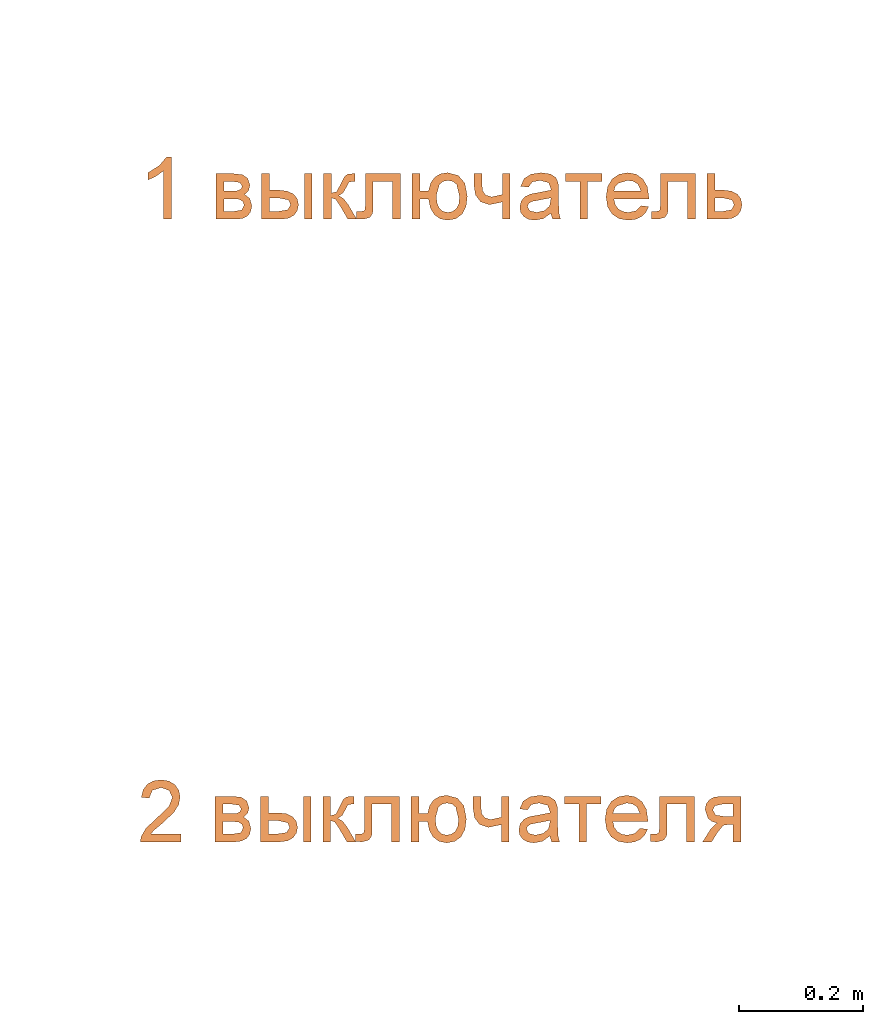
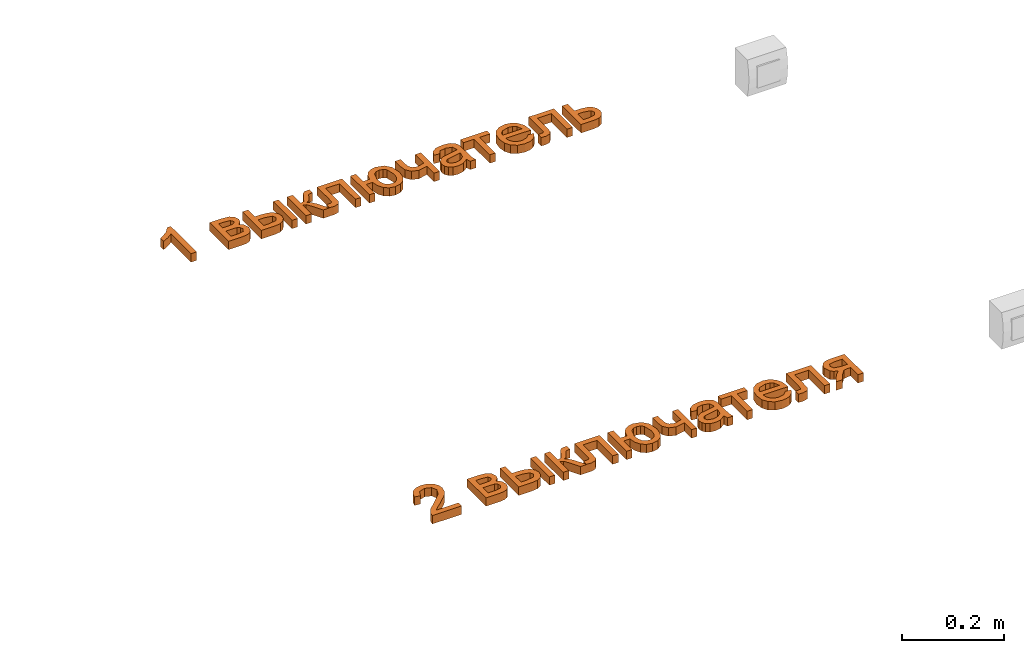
# One storey, part 62 of 87: 2 proxies.
"""IFC2X3 building model written with IfcOpenShell, lengths in millimetres."""

from ifc_helpers import new_model, entity, si_unit, converted_unit, derived_unit, direction, frame, frame_2d, origin, place, context, subcontext, project, spatial, polyline, rectangle, outline, extrude, element, save


model = new_model("IFC2X3")

# Units and contexts
model_context = context("Model", 3, precision=0.01, world=origin(), true_north=direction((6.12303176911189e-17, 1.0)))
body_context = subcontext(model_context, "Body", "Model", "MODEL_VIEW")
ifc_project = project(units=[si_unit("LENGTHUNIT", "METRE", prefix="MILLI"), si_unit("AREAUNIT", "SQUARE_METRE"), si_unit("VOLUMEUNIT", "CUBIC_METRE"), converted_unit("PLANEANGLEUNIT", "DEGREE", entity("IfcRatioMeasure", 0.0174532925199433), si_unit("PLANEANGLEUNIT", "RADIAN"), dimensions=[0, 0, 0, 0, 0, 0, 0]), si_unit("MASSUNIT", "GRAM", prefix="KILO"), derived_unit("MASSDENSITYUNIT", [(si_unit("MASSUNIT", "GRAM", prefix="KILO"), 1), (si_unit("LENGTHUNIT", "METRE"), -3)]), si_unit("TIMEUNIT", "SECOND"), si_unit("FREQUENCYUNIT", "HERTZ"), si_unit("THERMODYNAMICTEMPERATUREUNIT", "DEGREE_CELSIUS"), derived_unit("THERMALTRANSMITTANCEUNIT", [(si_unit("MASSUNIT", "GRAM", prefix="KILO"), 1), (si_unit("THERMODYNAMICTEMPERATUREUNIT", "KELVIN"), -1), (si_unit("TIMEUNIT", "SECOND"), -3)]), derived_unit("VOLUMETRICFLOWRATEUNIT", [(si_unit("LENGTHUNIT", "METRE"), 3), (si_unit("TIMEUNIT", "SECOND"), -1)]), si_unit("ELECTRICCURRENTUNIT", "AMPERE"), si_unit("ELECTRICVOLTAGEUNIT", "VOLT"), si_unit("POWERUNIT", "WATT"), si_unit("FORCEUNIT", "NEWTON", prefix="KILO"), si_unit("ILLUMINANCEUNIT", "LUX"), si_unit("LUMINOUSFLUXUNIT", "LUMEN"), si_unit("LUMINOUSINTENSITYUNIT", "CANDELA"), derived_unit("USERDEFINED", [(si_unit("MASSUNIT", "GRAM", prefix="KILO"), -1), (si_unit("LENGTHUNIT", "METRE"), -2), (si_unit("TIMEUNIT", "SECOND"), 3), (si_unit("LUMINOUSFLUXUNIT", "LUMEN"), 1)]), derived_unit("LINEARVELOCITYUNIT", [(si_unit("LENGTHUNIT", "METRE"), 1), (si_unit("TIMEUNIT", "SECOND"), -1)]), si_unit("PRESSUREUNIT", "PASCAL"), derived_unit("USERDEFINED", [(si_unit("LENGTHUNIT", "METRE"), -2), (si_unit("MASSUNIT", "GRAM", prefix="KILO"), 1), (si_unit("TIMEUNIT", "SECOND"), -2)])], contexts=[model_context])

# Site, building, storey
site_placement = place(None, origin())
site = spatial("IfcSite", under=ifc_project, at=site_placement, Name="Default", CompositionType="ELEMENT")
building_placement = place(site_placement, origin())
building = spatial("IfcBuilding", under=site, at=building_placement, Name="Наименование здания", CompositionType="ELEMENT")
storey_placement = place(building_placement, origin())
storey = spatial("IfcBuildingStorey", under=building, at=storey_placement, Name="Этаж 01", CompositionType="ELEMENT", Elevation=0.0)

# Proxies
proxy_1_placement = place(storey_placement, origin())
element("IfcBuildingElementProxy", 1, at=proxy_1_placement, inside=storey, Name="Текст модели:100 мм Arial", ObjectType="Текст модели:100 мм Arial", context=body_context, shape_type="SweptSolid", body=[
    extrude(outline(polyline([(-63.8793021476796, -16.918484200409), (36.5770080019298, -16.918484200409), (36.5770080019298, -8.825080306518), (23.2106288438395, 2.34626961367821), (11.4629304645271, 20.7526321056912), (-0.407395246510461, 20.7526321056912), (5.93243780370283, 7.53340574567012), (14.4059864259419, -4.36144543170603), (-63.8793021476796, -4.36144543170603), (-63.8793021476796, -16.918484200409)])), frame((58426.7497074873, -3683.26428571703, 0.0), z_axis=(0.0, 0.0, 1.0), x_axis=(0.0, 1.0, 0.0)), (0.0, 0.0, 1.0), 20.0),
    extrude(outline(polyline([(-37.9619182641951, -40.7346098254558), (35.8106845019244, -40.7346098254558), (35.8106845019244, -8.82697811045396), (34.4801779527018, 2.14816807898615), (30.4886583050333, 10.1557328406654), (23.7502864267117, 15.214110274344), (14.1792231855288, 17.3416944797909), (2.34568567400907, 13.9817055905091), (-4.4601312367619, 5.54494516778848), (-10.6773369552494, 12.0441937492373), (-19.3961402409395, 14.2024347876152), (-30.1260317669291, 10.633979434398), (-36.2819238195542, 2.09911714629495), (-37.9619182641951, -13.0698837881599), (-37.9619182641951, -40.7346098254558)]), holes=[polyline([(-9.70858103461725, -28.1775710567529), (-25.4048794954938, -28.1775710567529), (-25.4048794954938, -15.3752776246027), (-23.6635713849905, -2.2051021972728), (-17.5076793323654, 1.64539601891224), (-12.8968916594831, -0.54963321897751), (-10.3462431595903, -5.52830288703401), (-9.70858103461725, -15.7676850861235), (-9.70858103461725, -28.1775710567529)]), polyline([(23.2536457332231, -28.1775710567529), (2.84845773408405, -28.1775710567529), (2.84845773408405, -14.0018515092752), (3.58422172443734, -2.95312892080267), (7.10362614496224, 2.63867740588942), (13.1491535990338, 4.78465571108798), (20.9850400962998, 0.88510656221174), (23.2536457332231, -12.7755781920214), (23.2536457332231, -28.1775710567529)])]), frame((58556.6057744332, -3711.33290336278, 0.0), z_axis=(0.0, 0.0, 1.0), x_axis=(0.0, -1.0, 0.0)), (0.0, 0.0, 1.0), 20.0),
    extrude(outline(polyline([(-42.3988715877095, -34.5139341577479), (31.37373117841, -34.5139341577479), (31.37373117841, -3.73447389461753), (29.6538828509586, 9.31613988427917), (24.4943378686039, 18.2526066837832), (16.9129030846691, 23.4121516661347), (7.927385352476, 25.1319999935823), (-1.9410491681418, 23.0810578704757), (-9.42438208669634, 16.9282315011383), (-14.1424686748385, 6.98622058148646), (-15.7151642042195, -6.43227519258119), (-15.7151642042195, -21.956895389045), (-42.3988715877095, -21.956895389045), (-42.3988715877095, -34.5139341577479)]), holes=[polyline([(18.8166924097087, -21.956895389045), (-3.15812543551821, -21.956895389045), (-3.15812543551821, -7.41329384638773), (0.226388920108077, 8.88387853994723), (7.95191081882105, 12.5749612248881), (16.1802047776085, 7.59629155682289), (18.8166924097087, -9.05650009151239), (18.8166924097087, -21.956895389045)])]), frame((58624.1577015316, -3715.7698566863, 0.0), z_axis=(0.0, 0.0, 1.0), x_axis=(0.0, -1.0, 0.0)), (0.0, 0.0, 1.0), 20.0),
    extrude(outline(polyline([(-30.3295712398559, -29.5353037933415), (43.4430315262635, -29.5353037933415), (43.4430315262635, -16.9782650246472), (8.91117491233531, -16.9782650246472), (11.2288314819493, -10.2337617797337), (20.806026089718, -3.61188586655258), (43.4430315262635, 9.55828956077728), (43.4430315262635, 23.8321109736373), (20.3155167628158, 10.3921554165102), (10.0209522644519, 2.6175825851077), (5.13425309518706, -5.30414304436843), (0.756457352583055, 1.79597946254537), (-8.18307513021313, 6.86048826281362), (-16.4481572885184, 11.176970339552), (-17.7725324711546, 17.3083369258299), (-17.6989560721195, 20.6928512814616), (-30.3295712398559, 20.6928512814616), (-30.3295712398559, 18.2893555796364), (-29.3730780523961, 9.10456843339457), (-25.6819953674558, 4.05232236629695), (-14.3389671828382, -1.67437402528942), (-1.19331722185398, -8.56603006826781), (1.06302568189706, -16.9782650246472), (-30.3295712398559, -16.9782650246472), (-30.3295712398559, -29.5353037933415)])), frame((58719.6353813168, -3703.70055633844, 0.0), z_axis=(0.0, 0.0, 1.0), x_axis=(0.0, -1.0, 0.0)), (0.0, 0.0, 1.0), 20.0),
    extrude(outline(polyline([(-37.3770894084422, -42.2980684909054), (36.3955133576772, -42.2980684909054), (36.3955133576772, -29.7410297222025), (3.43328658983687, -29.7410297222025), (3.43328658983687, -15.614361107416), (17.8052098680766, -12.7908667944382), (28.7435678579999, -6.38052302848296), (35.6597493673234, 3.17521179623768), (37.9651432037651, 15.434879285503), (35.5064652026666, 28.5529380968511), (28.1304311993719, 38.6237077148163), (15.9903253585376, 45.0340514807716), (-0.760568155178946, 47.17083273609), (-22.0486729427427, 43.0382916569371), (-34.4462961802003, 32.541392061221), (-38.9467192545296, 15.1650991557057), (-37.0337328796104, 3.44499192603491), (-31.2947737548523, -5.86548823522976), (-21.9260456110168, -12.3555397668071), (-9.12375217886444, -15.614361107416), (-9.12375217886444, -29.7410297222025), (-37.3770894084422, -29.7410297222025), (-37.3770894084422, -42.2980684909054)]), holes=[polyline([(-26.3896804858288, 15.9744395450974), (-24.749539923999, 24.1598139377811), (-19.8291182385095, 29.9784808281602), (-0.147431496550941, 34.6137939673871), (11.4623111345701, 33.2740903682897), (19.3625769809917, 29.2549795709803), (23.8967225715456, 23.1389414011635), (25.4081044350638, 15.5084556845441), (23.7740952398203, 7.89942975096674), (18.8720676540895, 1.99492372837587), (10.4690297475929, -1.79426082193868), (-1.66801040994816, -3.05732233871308), (-19.8904319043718, 1.95813552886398), (-24.7648683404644, 7.9699404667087), (-26.3896804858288, 15.9744395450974)])]), frame((58875.2344620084, -3710.74807450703, 0.0), z_axis=(0.0, 0.0, 1.0), x_axis=(0.0, -1.0, 0.0)), (0.0, 0.0, 1.0), 20.0),
    extrude(outline(polyline([(-30.7618325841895, -26.3234895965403), (-10.4056955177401, -26.3234895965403), (3.94170229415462, -24.11619762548), (14.9658994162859, -15.7407508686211), (19.4663224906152, -1.50371765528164), (15.1498404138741, 19.1957759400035), (43.0107701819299, 19.1957759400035), (43.0107701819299, 31.7528147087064), (-30.7618325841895, 31.7528147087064), (-30.7618325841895, 19.1957759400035), (3.10783643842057, 19.1957759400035), (6.90928372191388, 1.85627123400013), (3.8436004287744, -7.85581343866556), (-3.34236121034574, -12.748643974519), (-16.6106385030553, -13.7664508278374), (-30.7618325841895, -13.7664508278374), (-30.7618325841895, -26.3234895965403)])), frame((58959.7161932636, -3704.13281768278, 0.0), z_axis=(0.0, 0.0, 1.0), x_axis=(0.0, -1.0, 0.0)), (0.0, 0.0, 1.0), 20.0),
    extrude(outline(polyline([(32.0508237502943, 7.88266535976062), (41.9780345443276, 7.88266535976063), (45.948918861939, 19.7953183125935), (35.1414436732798, 20.7608946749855), (14.2438893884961, 27.0545912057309), (-0.577126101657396, 31.9949297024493), (-11.1945882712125, 34.8877809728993), (-20.4974705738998, 33.9299602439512), (-28.5323068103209, 27.5470739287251), (-35.4619652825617, 13.8157249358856), (-38.3044049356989, -2.69989645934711), (-34.9462156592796, -15.3493345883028), (-25.030638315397, -24.3807697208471), (-19.5706723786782, -12.9644773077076), (-25.7868125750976, -4.50695904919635), (-24.0611841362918, 8.30922519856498), (-16.227994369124, 20.3304570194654), (-6.33956174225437, 20.679460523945), (-3.71040200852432, 19.7255176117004), (-6.50243004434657, -2.30048133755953), (-8.14662433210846, -13.2049019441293), (-7.01817966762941, -22.8490321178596), (-2.17478658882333, -31.1204151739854), (6.48825595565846, -36.5416029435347), (15.0010331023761, -37.7020395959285), (22.9495879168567, -35.320090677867), (29.6378522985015, -29.3899394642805), (34.3697581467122, -19.9057692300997), (36.2737661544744, -6.36055543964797), (32.0508237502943, 7.88266535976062)]), holes=[polyline([(8.2255178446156, 15.8244339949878), (11.5759514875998, 14.6300664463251), (20.1614376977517, 9.67421668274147), (24.4696920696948, -0.396473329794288), (23.3024692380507, -13.398792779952), (17.2491973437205, -22.9498553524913), (9.6215318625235, -24.3497471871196), (5.58084684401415, -21.1932043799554), (3.98706417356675, -15.5044472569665), (5.47226797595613, -4.61166010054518), (8.2255178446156, 15.8244339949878)])]), frame((59039.7799481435, -3709.81244526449, 0.0), z_axis=(0.0, 0.0, 1.0), x_axis=(0.316227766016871, -0.948683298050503, 0.0)), (0.0, 0.0, 1.0), 20.0),
    extrude(outline(polyline([(-24.7216700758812, -29.8229670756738), (-12.1646313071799, -29.8229670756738), (-12.1646313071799, -6.27851938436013), (49.0509326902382, -6.27851938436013), (49.0509326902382, 6.2785193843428), (-12.1646313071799, 6.2785193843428), (-12.1646313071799, 29.8229670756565), (-24.7216700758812, 29.8229670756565), (-24.7216700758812, -29.8229670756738)])), frame((59110.760876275, -3698.09265517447, 0.0), z_axis=(0.0, 0.0, 1.0), x_axis=(0.0, -1.0, 0.0)), (0.0, 0.0, 1.0), 20.0),
    extrude(outline(polyline([(-8.10128238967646, -20.3751729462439), (-15.5352214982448, -30.3140016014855), (-5.78400372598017, -33.5775071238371), (4.12185089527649, -33.3132173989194), (13.8776168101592, -29.4480778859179), (23.1785684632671, -21.9090340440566), (31.6380426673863, -9.59237957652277), (34.1620486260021, 3.74135328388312), (30.604050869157, 17.2442201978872), (20.817513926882, 30.0682768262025), (7.27698270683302, 39.784672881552), (-6.66179525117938, 43.1117813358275), (-19.9642596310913, 40.4221234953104), (-31.595850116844, 32.0882206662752), (-39.2435519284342, 20.5090048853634), (-41.3106827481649, 7.3431979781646), (-37.4373707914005, -6.34962495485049), (-27.2637442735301, -19.5098888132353), (-24.7804584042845, -21.8106804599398), (14.4643272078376, 18.7422646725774), (19.7071986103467, 10.6437992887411), (21.161467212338, 2.21005051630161), (19.1472085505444, -5.98136753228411), (13.9844981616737, -13.3528407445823), (3.53684605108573, -20.3751729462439), (-8.10128238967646, -20.3751729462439)]), holes=[polyline([(5.44081225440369, 27.4746984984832), (-25.1227061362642, -4.1076038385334), (-29.8038819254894, 7.41909510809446), (-27.8851342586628, 15.7498710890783), (-22.5382240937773, 23.3910349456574), (-8.40970331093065, 31.2368652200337), (-1.0807268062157, 30.9147288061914), (5.44081225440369, 27.4746984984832)])]), frame((59182.9464361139, -3716.82103703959, 0.0), z_axis=(0.0, 0.0, -1.0), x_axis=(-0.695421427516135, -0.718602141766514, 0.0)), (0.0, 0.0, -1.0), 20.0),
    extrude(outline(polyline([(-49.3689973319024, 12.5447760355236), (-49.3689973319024, -43.9618984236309), (24.3300290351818, -43.9618984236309), (24.3300290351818, -31.4048596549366), (-36.8119585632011, -31.4048596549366), (-36.8119585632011, -0.0122627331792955), (-1.61791435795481, -0.0122627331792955), (14.6179443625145, 0.833865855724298), (21.4728122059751, 5.4814417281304), (24.403605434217, 16.4688506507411), (23.765943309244, 26.6714446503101), (11.8465666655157, 26.6714446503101), (11.8465666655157, 21.0551128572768), (11.0740144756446, 15.3774673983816), (8.62146784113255, 13.1088617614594), (-2.32915288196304, 12.5447760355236), (-49.3689973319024, 12.5447760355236)])), frame((59247.3064101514, -3722.73998243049, 0.0), z_axis=(0.0, 0.0, -1.0), x_axis=(0.0, -1.0, 0.0)), (0.0, 0.0, -1.0), 20.0),
    extrude(outline(polyline([(-42.3988715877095, -32.8641249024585), (31.37373117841, -32.8641249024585), (31.37373117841, -3.70334541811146), (29.6538828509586, 8.66668666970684), (24.4943378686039, 17.1310382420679), (16.9129030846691, 22.0146717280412), (7.927385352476, 23.6425495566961), (-1.9410491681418, 21.7295631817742), (-9.42438208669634, 15.9906040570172), (-14.1424686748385, 6.70771504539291), (-15.7151642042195, -5.83706099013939), (-15.7151642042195, -20.3070861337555), (-42.3988715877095, -20.3070861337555), (-42.3988715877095, -32.8641249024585)]), holes=[polyline([(18.8166924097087, -20.3070861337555), (-3.15812543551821, -20.3070861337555), (-3.15812543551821, -7.0878597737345), (0.226388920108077, 7.73778463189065), (7.95191081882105, 11.0855107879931), (16.1802047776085, 6.56056224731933), (18.8166924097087, -8.58391322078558), (18.8166924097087, -20.3070861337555)])]), frame((59342.9679916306, -3715.7698566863, 0.0), z_axis=(0.0, 0.0, 1.0), x_axis=(0.0, -1.0, 0.0)), (0.0, 0.0, 1.0), 20.0),
    extrude(outline(polyline([(-49.3689973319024, 12.5447760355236), (-49.3689973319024, -43.9618984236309), (24.3300290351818, -43.9618984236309), (24.3300290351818, -31.404859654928), (-36.8119585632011, -31.404859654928), (-36.8119585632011, -0.0122627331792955), (-1.61791435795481, -0.0122627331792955), (14.6179443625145, 0.833865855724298), (21.4728122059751, 5.4814417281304), (24.403605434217, 16.4688506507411), (23.765943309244, 26.6714446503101), (11.8465666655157, 26.6714446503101), (11.8465666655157, 21.0551128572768), (11.0740144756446, 15.3774673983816), (8.62146784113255, 13.1088617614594), (-2.32915288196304, 12.5447760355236), (-49.3689973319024, 12.5447760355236)])), frame((58770.1389369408, -3722.73998243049, 0.0), z_axis=(0.0, 0.0, -1.0), x_axis=(0.0, -1.0, 0.0)), (0.0, 0.0, -1.0), 20.0),
    extrude(rectangle(XDim=73.7726027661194, YDim=12.5570387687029, at=frame_2d((-2.70006239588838e-13, 0.0), x_axis=(1.0, 0.0))), frame((58664.9859999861, -3710.25728648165, 0.0), z_axis=(0.0, 0.0, 1.0), x_axis=(0.0, -1.0, 0.0)), (0.0, 0.0, 1.0), 20.0),
])
proxy_2_placement = place(storey_placement, origin())
element("IfcBuildingElementProxy", 2, at=proxy_2_placement, inside=storey, Name="Текст модели:100 мм Arial", ObjectType="Текст модели:100 мм Arial", context=body_context, shape_type="SweptSolid", body=[
    extrude(outline(polyline([(-32.3858783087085, -45.1669477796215), (-32.3858783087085, -57.7239865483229), (33.5385752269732, -57.7239865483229), (32.1896745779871, -49.0664969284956), (24.5622545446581, -35.7369059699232), (8.84143061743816, -21.1810416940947), (-12.8390816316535, -0.260818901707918), (-18.259209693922, 13.9639515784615), (-13.1456499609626, 25.478658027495), (0.208466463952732, 30.1752848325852), (14.1266686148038, 25.589022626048), (19.4119066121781, 12.9093565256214), (31.968945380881, 14.4789863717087), (28.9247218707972, 26.6252235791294), (22.3426998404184, 35.4973110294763), (12.5662358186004, 40.923570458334), (-0.0613136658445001, 42.7323236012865), (-12.7808336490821, 40.7212353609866), (-22.5389035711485, 34.6879706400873), (-28.746912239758, 25.6748617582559), (-30.816248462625, 14.7242410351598), (-28.5844310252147, 2.81712712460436), (-21.1654774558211, -9.49465698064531), (-3.17604789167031, -26.6992716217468), (11.2694517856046, -38.7780637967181), (16.9348345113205, -45.1669477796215), (-32.3858783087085, -45.1669477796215)])), frame((58426.9786118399, -4696.58684601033, 0.0), z_axis=(0.0, 0.0, -1.0), x_axis=(-1.0, 0.0, 0.0)), (0.0, 0.0, -1.0), 20.0),
    extrude(outline(polyline([(-37.9619182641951, -40.7346098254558), (35.8106845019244, -40.7346098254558), (35.8106845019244, -8.82697811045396), (34.4801779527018, 2.14816807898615), (30.4886583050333, 10.1557328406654), (23.7502864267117, 15.214110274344), (14.1792231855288, 17.3416944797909), (2.34568567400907, 13.9817055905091), (-4.4601312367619, 5.54494516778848), (-10.6773369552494, 12.0441937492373), (-19.3961402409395, 14.2024347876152), (-30.1260317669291, 10.633979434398), (-36.2819238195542, 2.09911714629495), (-37.9619182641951, -13.0698837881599), (-37.9619182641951, -40.7346098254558)]), holes=[polyline([(-9.70858103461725, -28.1775710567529), (-25.4048794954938, -28.1775710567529), (-25.4048794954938, -15.3752776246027), (-23.6635713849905, -2.2051021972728), (-17.5076793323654, 1.64539601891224), (-12.8968916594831, -0.54963321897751), (-10.3462431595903, -5.52830288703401), (-9.70858103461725, -15.7676850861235), (-9.70858103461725, -28.1775710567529)]), polyline([(23.2536457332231, -28.1775710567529), (2.84845773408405, -28.1775710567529), (2.84845773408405, -14.0018515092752), (3.58422172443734, -2.95312892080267), (7.10362614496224, 2.63867740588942), (13.1491535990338, 4.78465571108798), (20.9850400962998, 0.88510656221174), (23.2536457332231, -12.7755781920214), (23.2536457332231, -28.1775710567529)])]), frame((58555.0361445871, -4718.50014805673, 0.0), z_axis=(0.0, 0.0, 1.0), x_axis=(0.0, -1.0, 0.0)), (0.0, 0.0, 1.0), 20.0),
    extrude(outline(polyline([(-42.3988715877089, -34.5139341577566), (31.3737311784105, -34.5139341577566), (31.3737311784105, -3.73447389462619), (29.6538828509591, 9.3161398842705), (24.4943378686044, 18.2526066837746), (16.9129030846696, 23.4121516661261), (7.92738535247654, 25.1319999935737), (-1.94104916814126, 23.081057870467), (-9.42438208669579, 16.9282315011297), (-14.1424686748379, 6.9862205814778), (-15.715164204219, -6.43227519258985), (-15.715164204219, -21.9568953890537), (-42.3988715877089, -21.9568953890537), (-42.3988715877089, -34.5139341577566)]), holes=[polyline([(18.8166924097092, -21.9568953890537), (-3.15812543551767, -21.9568953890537), (-3.15812543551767, -7.41329384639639), (0.226388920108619, 8.88387853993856), (7.95191081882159, 12.5749612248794), (16.180204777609, 7.59629155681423), (18.8166924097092, -9.05650009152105), (18.8166924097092, -21.9568953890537)])]), frame((58622.5880716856, -4722.93710138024, 0.0), z_axis=(0.0, 0.0, 1.0), x_axis=(0.0, -1.0, 0.0)), (0.0, 0.0, 1.0), 20.0),
    extrude(outline(polyline([(-30.329571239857, -29.5353037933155), (43.4430315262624, -29.5353037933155), (43.4430315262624, -16.9782650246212), (8.91117491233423, -16.9782650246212), (11.2288314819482, -10.2337617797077), (20.8060260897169, -3.61188586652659), (43.4430315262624, 9.55828956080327), (43.4430315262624, 23.8321109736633), (20.3155167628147, 10.3921554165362), (10.0209522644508, 2.61758258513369), (5.13425309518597, -5.30414304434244), (0.756457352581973, 1.79597946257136), (-8.18307513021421, 6.86048826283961), (-16.4481572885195, 11.176970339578), (-17.7725324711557, 17.3083369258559), (-17.6989560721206, 20.6928512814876), (-30.329571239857, 20.6928512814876), (-30.329571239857, 18.2893555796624), (-29.3730780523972, 9.10456843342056), (-25.6819953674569, 4.05232236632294), (-14.3389671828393, -1.67437402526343), (-1.19331722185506, -8.56603006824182), (1.06302568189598, -16.9782650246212), (-30.329571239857, -16.9782650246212), (-30.329571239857, -29.5353037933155)])), frame((58718.0657514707, -4710.86780103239, 0.0), z_axis=(0.0, 0.0, 1.0), x_axis=(0.0, -1.0, 0.0)), (0.0, 0.0, 1.0), 20.0),
    extrude(outline(polyline([(-37.3770894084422, -42.2980684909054), (36.3955133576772, -42.2980684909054), (36.3955133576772, -29.7410297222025), (3.43328658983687, -29.7410297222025), (3.43328658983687, -15.614361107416), (17.8052098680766, -12.7908667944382), (28.7435678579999, -6.38052302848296), (35.6597493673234, 3.17521179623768), (37.9651432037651, 15.434879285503), (35.5064652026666, 28.5529380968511), (28.1304311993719, 38.6237077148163), (15.9903253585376, 45.0340514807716), (-0.760568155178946, 47.17083273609), (-22.0486729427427, 43.0382916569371), (-34.4462961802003, 32.541392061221), (-38.9467192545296, 15.1650991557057), (-37.0337328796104, 3.44499192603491), (-31.2947737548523, -5.86548823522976), (-21.9260456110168, -12.3555397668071), (-9.12375217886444, -15.614361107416), (-9.12375217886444, -29.7410297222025), (-37.3770894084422, -29.7410297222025), (-37.3770894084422, -42.2980684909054)]), holes=[polyline([(-26.3896804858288, 15.9744395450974), (-24.749539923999, 24.1598139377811), (-19.8291182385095, 29.9784808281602), (-0.147431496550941, 34.6137939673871), (11.4623111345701, 33.2740903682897), (19.3625769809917, 29.2549795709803), (23.8967225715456, 23.1389414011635), (25.4081044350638, 15.5084556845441), (23.7740952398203, 7.89942975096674), (18.8720676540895, 1.99492372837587), (10.4690297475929, -1.79426082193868), (-1.66801040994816, -3.05732233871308), (-19.8904319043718, 1.95813552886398), (-24.7648683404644, 7.9699404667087), (-26.3896804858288, 15.9744395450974)])]), frame((58873.6648321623, -4717.91531920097, 0.0), z_axis=(0.0, 0.0, 1.0), x_axis=(0.0, -1.0, 0.0)), (0.0, 0.0, 1.0), 20.0),
    extrude(outline(polyline([(-30.7618325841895, -26.3234895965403), (-10.4056955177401, -26.3234895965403), (3.94170229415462, -24.11619762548), (14.9658994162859, -15.7407508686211), (19.4663224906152, -1.50371765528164), (15.1498404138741, 19.1957759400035), (43.0107701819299, 19.1957759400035), (43.0107701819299, 31.7528147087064), (-30.7618325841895, 31.7528147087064), (-30.7618325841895, 19.1957759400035), (3.10783643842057, 19.1957759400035), (6.90928372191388, 1.85627123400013), (3.8436004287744, -7.85581343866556), (-3.34236121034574, -12.748643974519), (-16.6106385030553, -13.7664508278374), (-30.7618325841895, -13.7664508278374), (-30.7618325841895, -26.3234895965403)])), frame((58958.1465634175, -4711.30006237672, 0.0), z_axis=(0.0, 0.0, 1.0), x_axis=(0.0, -1.0, 0.0)), (0.0, 0.0, 1.0), 20.0),
    extrude(outline(polyline([(32.0508237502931, 7.88266535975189), (41.9780345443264, 7.88266535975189), (45.9489188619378, 19.7953183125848), (35.1414436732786, 20.7608946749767), (14.2438893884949, 27.0545912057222), (-0.577126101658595, 31.9949297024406), (-11.1945882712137, 34.8877809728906), (-20.497470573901, 33.9299602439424), (-28.5323068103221, 27.5470739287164), (-35.4619652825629, 13.8157249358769), (-38.3044049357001, -2.69989645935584), (-34.9462156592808, -15.3493345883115), (-25.0306383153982, -24.3807697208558), (-19.5706723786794, -12.9644773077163), (-25.7868125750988, -4.50695904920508), (-24.061184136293, 8.30922519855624), (-16.2279943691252, 20.3304570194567), (-6.33956174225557, 20.6794605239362), (-3.71040200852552, 19.7255176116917), (-6.50243004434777, -2.30048133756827), (-8.14662433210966, -13.204901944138), (-7.01817966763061, -22.8490321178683), (-2.17478658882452, -31.1204151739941), (6.48825595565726, -36.5416029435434), (15.0010331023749, -37.7020395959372), (22.9495879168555, -35.3200906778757), (29.6378522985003, -29.3899394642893), (34.369758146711, -19.9057692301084), (36.2737661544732, -6.36055543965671), (32.0508237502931, 7.88266535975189)]), holes=[polyline([(8.2255178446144, 15.824433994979), (11.5759514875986, 14.6300664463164), (20.1614376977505, 9.67421668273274), (24.4696920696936, -0.396473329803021), (23.3024692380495, -13.3987927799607), (17.2491973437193, -22.9498553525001), (9.62153186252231, -24.3497471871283), (5.58084684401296, -21.1932043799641), (3.98706417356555, -15.5044472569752), (5.47226797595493, -4.61166010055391), (8.2255178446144, 15.824433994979)])]), frame((59038.2103182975, -4716.97968995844, 0.0), z_axis=(0.0, 0.0, 1.0), x_axis=(0.316227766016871, -0.948683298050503, 0.0)), (0.0, 0.0, 1.0), 20.0),
    extrude(outline(polyline([(-24.7216700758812, -29.8229670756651), (-12.1646313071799, -29.8229670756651), (-12.1646313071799, -6.27851938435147), (49.0509326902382, -6.27851938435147), (49.0509326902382, 6.27851938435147), (-12.1646313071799, 6.27851938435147), (-12.1646313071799, 29.8229670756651), (-24.7216700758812, 29.8229670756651), (-24.7216700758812, -29.8229670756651)])), frame((59109.1912464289, -4705.25989986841, 0.0), z_axis=(0.0, 0.0, 1.0), x_axis=(0.0, -1.0, 0.0)), (0.0, 0.0, 1.0), 20.0),
    extrude(outline(polyline([(-8.1012823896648, -20.375172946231), (-15.5352214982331, -30.3140016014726), (-5.78400372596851, -33.5775071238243), (4.12185089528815, -33.3132173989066), (13.8776168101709, -29.4480778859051), (23.1785684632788, -21.9090340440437), (31.638042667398, -9.59237957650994), (34.1620486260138, 3.74135328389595), (30.6040508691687, 17.2442201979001), (20.8175139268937, 30.0682768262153), (7.27698270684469, 39.7846728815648), (-6.66179525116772, 43.1117813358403), (-19.9642596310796, 40.4221234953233), (-31.5958501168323, 32.0882206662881), (-39.2435519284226, 20.5090048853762), (-41.3106827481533, 7.34319797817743), (-37.4373707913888, -6.34962495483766), (-27.2637442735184, -19.5098888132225), (-24.7804584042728, -21.810680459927), (14.4643272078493, 18.7422646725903), (19.7071986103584, 10.643799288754), (21.1614672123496, 2.21005051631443), (19.1472085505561, -5.98136753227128), (13.9844981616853, -13.3528407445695), (3.53684605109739, -20.375172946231), (-8.1012823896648, -20.375172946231)]), holes=[polyline([(5.44081225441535, 27.474698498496), (-25.1227061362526, -4.10760383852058), (-29.8038819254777, 7.41909510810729), (-27.8851342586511, 15.7498710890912), (-22.5382240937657, 23.3910349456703), (-8.40970331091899, 31.2368652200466), (-1.08072680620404, 30.9147288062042), (5.44081225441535, 27.474698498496)])]), frame((59181.3768062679, -4723.98828173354, 0.0), z_axis=(0.0, 0.0, -1.0), x_axis=(-0.695421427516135, -0.718602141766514, 0.0)), (0.0, 0.0, -1.0), 20.0),
    extrude(outline(polyline([(-49.3689973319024, 12.544776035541), (-49.3689973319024, -43.9618984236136), (24.3300290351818, -43.9618984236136), (24.3300290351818, -31.4048596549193), (-36.8119585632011, -31.4048596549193), (-36.8119585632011, -0.0122627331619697), (-1.61791435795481, -0.0122627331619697), (14.6179443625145, 0.833865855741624), (21.4728122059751, 5.48144172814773), (24.403605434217, 16.4688506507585), (23.765943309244, 26.6714446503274), (11.8465666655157, 26.6714446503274), (11.8465666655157, 21.0551128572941), (11.0740144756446, 15.3774673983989), (8.62146784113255, 13.1088617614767), (-2.32915288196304, 12.544776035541), (-49.3689973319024, 12.544776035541)])), frame((59245.7367803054, -4729.90722712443, 0.0), z_axis=(0.0, 0.0, -1.0), x_axis=(0.0, -1.0, 0.0)), (0.0, 0.0, -1.0), 20.0),
    extrude(rectangle(XDim=73.7726027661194, YDim=12.5570387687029, at=frame_2d((-2.70006239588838e-13, 0.0), x_axis=(1.0, 0.0))), frame((58663.41637014, -4717.42453117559, 0.0), z_axis=(0.0, 0.0, 1.0), x_axis=(0.0, -1.0, 0.0)), (0.0, 0.0, 1.0), 20.0),
    extrude(outline(polyline([(-49.3689973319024, 12.544776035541), (-49.3689973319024, -43.9618984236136), (24.3300290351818, -43.9618984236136), (24.3300290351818, -31.4048596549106), (-36.8119585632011, -31.4048596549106), (-36.8119585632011, -0.0122627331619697), (-1.61791435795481, -0.0122627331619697), (14.6179443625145, 0.833865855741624), (21.4728122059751, 5.48144172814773), (24.403605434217, 16.4688506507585), (23.765943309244, 26.6714446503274), (11.8465666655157, 26.6714446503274), (11.8465666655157, 21.0551128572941), (11.0740144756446, 15.3774673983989), (8.62146784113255, 13.1088617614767), (-2.32915288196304, 12.544776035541), (-49.3689973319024, 12.544776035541)])), frame((58768.5693070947, -4729.90722712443, 0.0), z_axis=(0.0, 0.0, -1.0), x_axis=(0.0, -1.0, 0.0)), (0.0, 0.0, -1.0), 20.0),
    extrude(outline(polyline([(-36.1880068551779, -39.1855638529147), (-3.42198381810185, -39.1855638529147), (7.43666640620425, -37.7079045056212), (15.3890488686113, -33.2749264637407), (20.2634853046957, -26.4691095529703), (21.8882974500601, -17.872933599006), (17.1303569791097, -3.64816311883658), (11.0970922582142, 1.34890064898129), (2.51317903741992, 3.97925691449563), (13.2062823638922, 14.4271055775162), (25.8123720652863, 34.5870389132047), (11.2932959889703, 34.5870389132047), (1.28690572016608, 18.6454857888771), (-7.46868576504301, 7.92785699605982), (-16.7883629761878, 6.33370168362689), (-23.630968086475, 6.33370168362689), (-23.630968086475, 34.5870389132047), (-36.1880068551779, 34.5870389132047), (-36.1880068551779, -39.1855638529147)]), holes=[polyline([(-23.630968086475, -26.6285250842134), (-23.630968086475, -6.22333708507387), (-10.7796237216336, -6.22333708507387), (4.90441200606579, -8.81077378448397), (9.33125868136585, -16.9164404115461), (6.3268890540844, -23.7222573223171), (-7.07627830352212, -26.6285250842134), (-23.630968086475, -26.6285250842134)])]), frame((59328.852904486, -4719.72379364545, 0.0), z_axis=(0.0, 0.0, 1.0), x_axis=(-1.0, 0.0, 0.0)), (0.0, 0.0, 1.0), 20.0),
])

save(model, "model.ifc")
